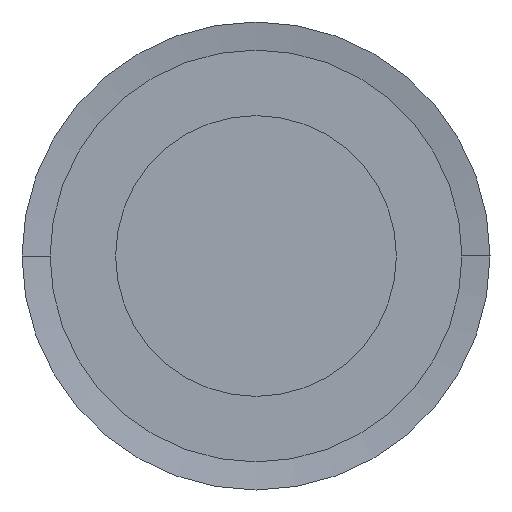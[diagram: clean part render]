
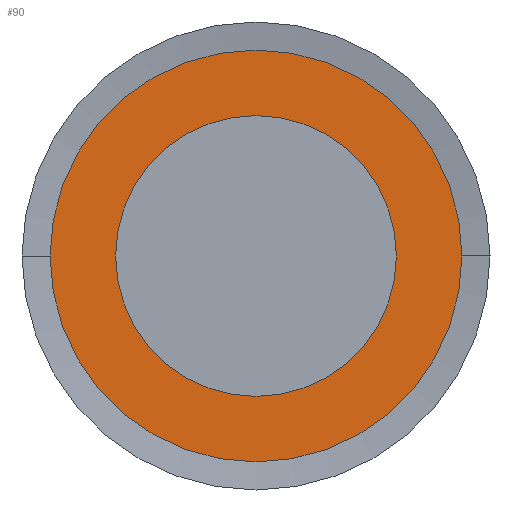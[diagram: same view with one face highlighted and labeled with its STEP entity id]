
A CAD part, left-side view. The second image highlights one B-rep face of the part: STEP entity #90.
In plain terms, the highlighted planar face has unit normal (-1, 0, 0).
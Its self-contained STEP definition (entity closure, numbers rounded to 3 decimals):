
#90 = ADVANCED_FACE( '', ( #246, #247 ), #248, .T. );
#246 = FACE_BOUND( '', #525, .T. );
#247 = FACE_OUTER_BOUND( '', #526, .T. );
#248 = PLANE( '', #527 );
#525 = EDGE_LOOP( '', ( #1096, #1097 ) );
#526 = EDGE_LOOP( '', ( #1098, #1099 ) );
#527 = AXIS2_PLACEMENT_3D( '', #1100, #1101, #1102 );
#1096 = ORIENTED_EDGE( '', *, *, #1947, .F. );
#1097 = ORIENTED_EDGE( '', *, *, #2209, .F. );
#1098 = ORIENTED_EDGE( '', *, *, #2210, .T. );
#1099 = ORIENTED_EDGE( '', *, *, #1959, .T. );
#1100 = CARTESIAN_POINT( '', ( 0.15, 9.25, 0. ) );
#1101 = DIRECTION( '', ( -1., 0., 0. ) );
#1102 = DIRECTION( '', ( 0., 1., 0. ) );
#1947 = EDGE_CURVE( '', #2328, #2331, #2332, .T. );
#1959 = EDGE_CURVE( '', #2355, #2352, #2356, .T. );
#2209 = EDGE_CURVE( '', #2331, #2328, #2843, .T. );
#2210 = EDGE_CURVE( '', #2352, #2355, #2844, .T. );
#2328 = VERTEX_POINT( '', #2962 );
#2331 = VERTEX_POINT( '', #2966 );
#2332 = CIRCLE( '', #2967, 7.5 );
#2352 = VERTEX_POINT( '', #2992 );
#2355 = VERTEX_POINT( '', #2996 );
#2356 = CIRCLE( '', #2997, 11. );
#2843 = CIRCLE( '', #3579, 7.5 );
#2844 = CIRCLE( '', #3580, 11. );
#2962 = CARTESIAN_POINT( '', ( 0.15, 7.5, 0. ) );
#2966 = CARTESIAN_POINT( '', ( 0.15, -7.5, 0. ) );
#2967 = AXIS2_PLACEMENT_3D( '', #3811, #3812, #3813 );
#2992 = CARTESIAN_POINT( '', ( 0.15, 11., 0. ) );
#2996 = CARTESIAN_POINT( '', ( 0.15, -11., 0. ) );
#2997 = AXIS2_PLACEMENT_3D( '', #3835, #3836, #3837 );
#3579 = AXIS2_PLACEMENT_3D( '', #4395, #4396, #4397 );
#3580 = AXIS2_PLACEMENT_3D( '', #4398, #4399, #4400 );
#3811 = CARTESIAN_POINT( '', ( 0.15, 0., 0. ) );
#3812 = DIRECTION( '', ( -1., 0., 0. ) );
#3813 = DIRECTION( '', ( 0., 1., 0. ) );
#3835 = CARTESIAN_POINT( '', ( 0.15, 0., 0. ) );
#3836 = DIRECTION( '', ( -1., 0., 0. ) );
#3837 = DIRECTION( '', ( 0., 1., 0. ) );
#4395 = CARTESIAN_POINT( '', ( 0.15, 0., 0. ) );
#4396 = DIRECTION( '', ( -1., 0., 0. ) );
#4397 = DIRECTION( '', ( 0., 1., 0. ) );
#4398 = CARTESIAN_POINT( '', ( 0.15, 0., 0. ) );
#4399 = DIRECTION( '', ( -1., 0., 0. ) );
#4400 = DIRECTION( '', ( 0., 1., 0. ) );
